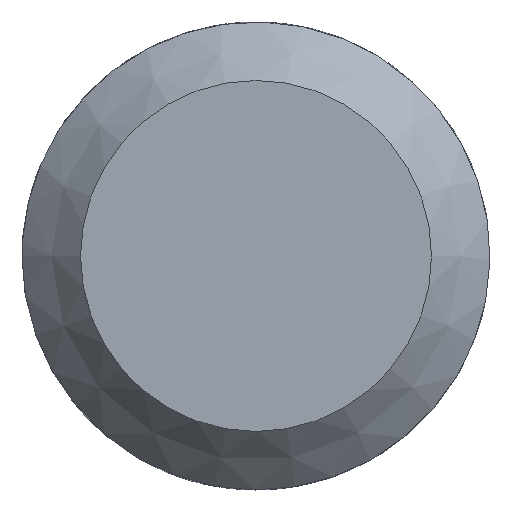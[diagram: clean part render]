
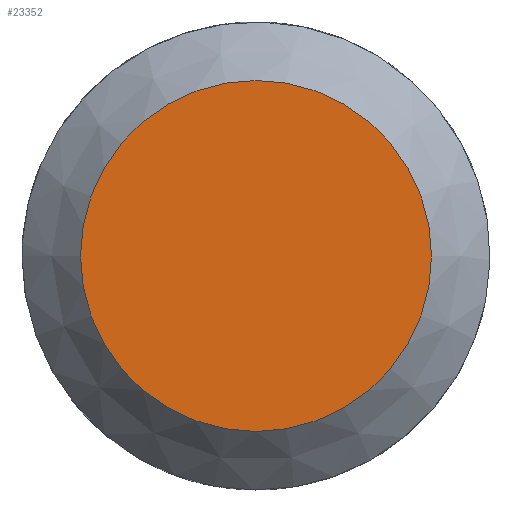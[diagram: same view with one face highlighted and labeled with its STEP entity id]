
A CAD part, left-side view. The second image highlights one B-rep face of the part: STEP entity #23352.
In plain terms, the highlighted planar face has unit normal (-1, 0, 0).
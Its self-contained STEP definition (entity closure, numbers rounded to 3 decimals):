
#6817=PLANE('',#23123);
#8799=ORIENTED_EDGE('',*,*,#10181,.F.);
#9013=CIRCLE('',#23122,1.5);
#9502=VERTEX_POINT('',#22723);
#10181=EDGE_CURVE('',#9502,#9502,#9013,.T.);
#10377=EDGE_LOOP('',(#8799));
#10573=FACE_BOUND('',#10377,.T.);
#11362=DIRECTION('',(1.,0.,0.));
#11363=DIRECTION('',(0.,0.,-1.5));
#11364=DIRECTION('',(-1.,0.,0.));
#11365=DIRECTION('',(0.,1.,0.));
#22723=CARTESIAN_POINT('',(0.,41.995,-1.5));
#22724=CARTESIAN_POINT('',(0.,41.995,0.));
#22725=CARTESIAN_POINT('',(0.,41.995,0.));
#23122=AXIS2_PLACEMENT_3D('',#22724,#11362,#11363);
#23123=AXIS2_PLACEMENT_3D('',#22725,#11364,#11365);
#23352=ADVANCED_FACE('',(#10573),#6817,.T.);
